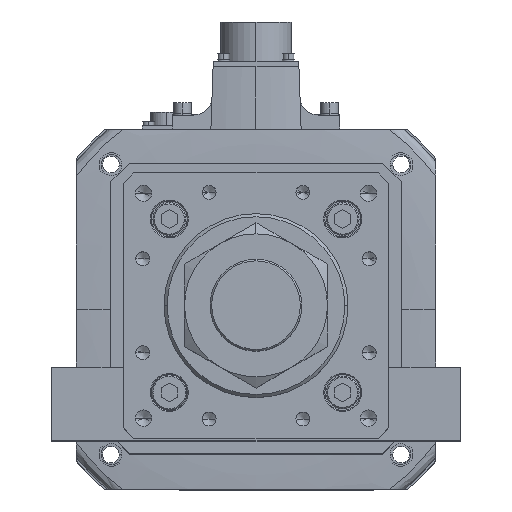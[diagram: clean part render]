
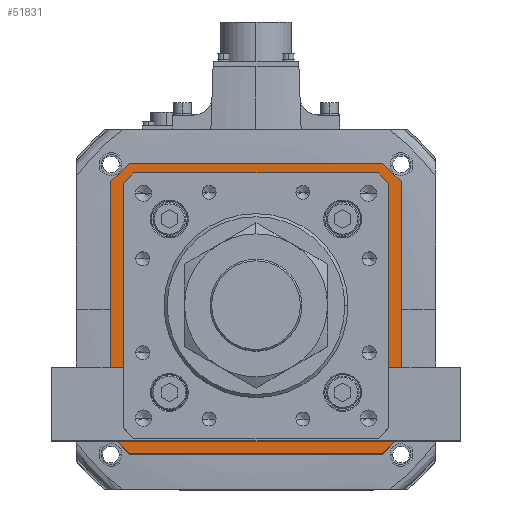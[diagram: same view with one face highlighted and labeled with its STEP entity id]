
A CAD part, top view. The second image highlights one B-rep face of the part: STEP entity #51831.
In plain terms, the highlighted planar face has unit normal (0, 0, 1) as drawn and (0, 0, -1) by its records, which use the part's own axes.
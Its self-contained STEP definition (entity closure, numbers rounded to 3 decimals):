
#22 = VERTEX_POINT ( 'NONE', #49429 ) ;
#27 = CARTESIAN_POINT ( 'NONE',  ( 58.793, -63., 60. ) ) ;
#34 = CARTESIAN_POINT ( 'NONE',  ( -62., -71., 60. ) ) ;
#83 = DIRECTION ( 'NONE',  ( 0., -1., 0. ) ) ;
#411 = VECTOR ( 'NONE', #14367, 1000. ) ;
#435 = CARTESIAN_POINT ( 'NONE',  ( 62., -71., 60. ) ) ;
#634 = CARTESIAN_POINT ( 'NONE',  ( 71., -62., 60. ) ) ;
#1314 = CARTESIAN_POINT ( 'NONE',  ( -71., -62., 60. ) ) ;
#1891 = EDGE_CURVE ( 'NONE', #39667, #38393, #15159, .T. ) ;
#1938 = EDGE_CURVE ( 'NONE', #15852, #28241, #16554, .T. ) ;
#2105 = ORIENTED_EDGE ( 'NONE', *, *, #35217, .F. ) ;
#2405 = PLANE ( 'NONE',  #21901 ) ;
#2973 = DIRECTION ( 'NONE',  ( 1., 0., 0. ) ) ;
#3603 = ORIENTED_EDGE ( 'NONE', *, *, #28054, .T. ) ;
#4271 = VECTOR ( 'NONE', #48560, 1000. ) ;
#4365 = LINE ( 'NONE', #54025, #23740 ) ;
#4792 = VECTOR ( 'NONE', #17540, 1000. ) ;
#5046 = VERTEX_POINT ( 'NONE', #53809 ) ;
#5992 = VECTOR ( 'NONE', #50676, 1000. ) ;
#6170 = EDGE_CURVE ( 'NONE', #55382, #22, #49388, .T. ) ;
#6862 = EDGE_CURVE ( 'NONE', #9101, #45221, #4365, .T. ) ;
#7244 = VERTEX_POINT ( 'NONE', #34402 ) ;
#7733 = CARTESIAN_POINT ( 'NONE',  ( 71., 62., 60. ) ) ;
#8147 = DIRECTION ( 'NONE',  ( -0.707, 0.707, 0. ) ) ;
#9101 = VERTEX_POINT ( 'NONE', #34 ) ;
#9621 = ORIENTED_EDGE ( 'NONE', *, *, #1891, .T. ) ;
#9720 = CARTESIAN_POINT ( 'NONE',  ( -60.896, 60.896, 60. ) ) ;
#10563 = VECTOR ( 'NONE', #19346, 1000. ) ;
#10633 = LINE ( 'NONE', #36006, #16855 ) ;
#10750 = CARTESIAN_POINT ( 'NONE',  ( 63., -58.793, 60. ) ) ;
#11009 = VECTOR ( 'NONE', #35081, 1000. ) ;
#11554 = ORIENTED_EDGE ( 'NONE', *, *, #1938, .F. ) ;
#12920 = CARTESIAN_POINT ( 'NONE',  ( 71., 71., 60. ) ) ;
#14367 = DIRECTION ( 'NONE',  ( -0.707, -0.707, 0. ) ) ;
#15159 = LINE ( 'NONE', #35267, #11009 ) ;
#15400 = LINE ( 'NONE', #19547, #10563 ) ;
#15852 = VERTEX_POINT ( 'NONE', #33961 ) ;
#15898 = LINE ( 'NONE', #30936, #37987 ) ;
#15910 = EDGE_LOOP ( 'NONE', ( #22196, #55311, #24316, #3603, #2105, #21984, #11554, #35744 ) ) ;
#16044 = LINE ( 'NONE', #53582, #4271 ) ;
#16554 = LINE ( 'NONE', #12920, #4792 ) ;
#16855 = VECTOR ( 'NONE', #23090, 1000. ) ;
#17444 = DIRECTION ( 'NONE',  ( -1., 0., 0. ) ) ;
#17540 = DIRECTION ( 'NONE',  ( 0., 1., 0. ) ) ;
#17799 = LINE ( 'NONE', #9720, #34324 ) ;
#18102 = ORIENTED_EDGE ( 'NONE', *, *, #25184, .T. ) ;
#18293 = VECTOR ( 'NONE', #42611, 1000. ) ;
#19346 = DIRECTION ( 'NONE',  ( 0.707, 0.707, 0. ) ) ;
#19547 = CARTESIAN_POINT ( 'NONE',  ( 60.896, -60.896, 60. ) ) ;
#19578 = EDGE_CURVE ( 'NONE', #9101, #34320, #10633, .T. ) ;
#20380 = LINE ( 'NONE', #52678, #52899 ) ;
#20410 = DIRECTION ( 'NONE',  ( 0., 0., 1. ) ) ;
#20755 = VECTOR ( 'NONE', #33132, 1000. ) ;
#21509 = CARTESIAN_POINT ( 'NONE',  ( -62., 71., 60. ) ) ;
#21901 = AXIS2_PLACEMENT_3D ( 'NONE', #24474, #20410, #2973 ) ;
#21984 = ORIENTED_EDGE ( 'NONE', *, *, #31521, .T. ) ;
#22196 = ORIENTED_EDGE ( 'NONE', *, *, #6862, .F. ) ;
#22770 = VERTEX_POINT ( 'NONE', #50624 ) ;
#22852 = ORIENTED_EDGE ( 'NONE', *, *, #28966, .T. ) ;
#23090 = DIRECTION ( 'NONE',  ( -0.707, 0.707, 0. ) ) ;
#23740 = VECTOR ( 'NONE', #49548, 1000. ) ;
#24316 = ORIENTED_EDGE ( 'NONE', *, *, #43042, .F. ) ;
#24474 = CARTESIAN_POINT ( 'NONE',  ( 0., 0., 60. ) ) ;
#25184 = EDGE_CURVE ( 'NONE', #37384, #39667, #44245, .T. ) ;
#26773 = LINE ( 'NONE', #51245, #5992 ) ;
#27171 = DIRECTION ( 'NONE',  ( 0., -1., 0. ) ) ;
#27600 = ORIENTED_EDGE ( 'NONE', *, *, #40941, .T. ) ;
#27925 = CARTESIAN_POINT ( 'NONE',  ( 62., 71., 60. ) ) ;
#27956 = EDGE_CURVE ( 'NONE', #15852, #45221, #46767, .T. ) ;
#28054 = EDGE_CURVE ( 'NONE', #5046, #41677, #54366, .T. ) ;
#28241 = VERTEX_POINT ( 'NONE', #7733 ) ;
#28966 = EDGE_CURVE ( 'NONE', #32998, #37384, #20380, .T. ) ;
#29695 = VECTOR ( 'NONE', #27171, 1000. ) ;
#30936 = CARTESIAN_POINT ( 'NONE',  ( -59., 63., 60. ) ) ;
#31521 = EDGE_CURVE ( 'NONE', #43021, #28241, #16044, .T. ) ;
#31771 = CARTESIAN_POINT ( 'NONE',  ( -71., 71., 60. ) ) ;
#32005 = CARTESIAN_POINT ( 'NONE',  ( -63., -58.793, 60. ) ) ;
#32583 = ORIENTED_EDGE ( 'NONE', *, *, #41573, .T. ) ;
#32627 = CARTESIAN_POINT ( 'NONE',  ( -63., 58.793, 60. ) ) ;
#32998 = VERTEX_POINT ( 'NONE', #32627 ) ;
#33132 = DIRECTION ( 'NONE',  ( 0.707, -0.707, 0. ) ) ;
#33832 = LINE ( 'NONE', #31771, #29695 ) ;
#33961 = CARTESIAN_POINT ( 'NONE',  ( 71., -62., 60. ) ) ;
#34320 = VERTEX_POINT ( 'NONE', #1314 ) ;
#34324 = VECTOR ( 'NONE', #50906, 1000. ) ;
#34402 = CARTESIAN_POINT ( 'NONE',  ( 58.793, 63., 60. ) ) ;
#35081 = DIRECTION ( 'NONE',  ( 1., 0., 0. ) ) ;
#35217 = EDGE_CURVE ( 'NONE', #43021, #41677, #26773, .T. ) ;
#35267 = CARTESIAN_POINT ( 'NONE',  ( 59., -63., 60. ) ) ;
#35744 = ORIENTED_EDGE ( 'NONE', *, *, #27956, .T. ) ;
#36006 = CARTESIAN_POINT ( 'NONE',  ( -62., -71., 60. ) ) ;
#37370 = CARTESIAN_POINT ( 'NONE',  ( -60.896, -60.896, 60. ) ) ;
#37384 = VERTEX_POINT ( 'NONE', #32005 ) ;
#37987 = VECTOR ( 'NONE', #17444, 1000. ) ;
#38393 = VERTEX_POINT ( 'NONE', #27 ) ;
#39667 = VERTEX_POINT ( 'NONE', #42508 ) ;
#40941 = EDGE_CURVE ( 'NONE', #38393, #55382, #15400, .T. ) ;
#41573 = EDGE_CURVE ( 'NONE', #22, #7244, #53361, .T. ) ;
#41677 = VERTEX_POINT ( 'NONE', #21509 ) ;
#42508 = CARTESIAN_POINT ( 'NONE',  ( -58.793, -63., 60. ) ) ;
#42611 = DIRECTION ( 'NONE',  ( 0., 1., 0. ) ) ;
#43021 = VERTEX_POINT ( 'NONE', #27925 ) ;
#43042 = EDGE_CURVE ( 'NONE', #5046, #34320, #33832, .T. ) ;
#44245 = LINE ( 'NONE', #37370, #20755 ) ;
#44349 = VECTOR ( 'NONE', #8147, 1000. ) ;
#44629 = ORIENTED_EDGE ( 'NONE', *, *, #6170, .T. ) ;
#44792 = EDGE_CURVE ( 'NONE', #22770, #32998, #17799, .T. ) ;
#45221 = VERTEX_POINT ( 'NONE', #435 ) ;
#46211 = CARTESIAN_POINT ( 'NONE',  ( -71., 62., 60. ) ) ;
#46397 = FACE_BOUND ( 'NONE', #51107, .T. ) ;
#46767 = LINE ( 'NONE', #634, #411 ) ;
#48560 = DIRECTION ( 'NONE',  ( 0.707, -0.707, 0. ) ) ;
#49171 = FACE_OUTER_BOUND ( 'NONE', #15910, .T. ) ;
#49388 = LINE ( 'NONE', #51135, #18293 ) ;
#49429 = CARTESIAN_POINT ( 'NONE',  ( 63., 58.793, 60. ) ) ;
#49548 = DIRECTION ( 'NONE',  ( 1., 0., 0. ) ) ;
#50191 = VECTOR ( 'NONE', #50679, 1000. ) ;
#50624 = CARTESIAN_POINT ( 'NONE',  ( -58.793, 63., 60. ) ) ;
#50676 = DIRECTION ( 'NONE',  ( -1., 0., 0. ) ) ;
#50679 = DIRECTION ( 'NONE',  ( 0.707, 0.707, 0. ) ) ;
#50906 = DIRECTION ( 'NONE',  ( -0.707, -0.707, 0. ) ) ;
#51107 = EDGE_LOOP ( 'NONE', ( #52049, #22852, #18102, #9621, #27600, #44629, #32583, #54173 ) ) ;
#51135 = CARTESIAN_POINT ( 'NONE',  ( 63., 59., 60. ) ) ;
#51245 = CARTESIAN_POINT ( 'NONE',  ( -71., 71., 60. ) ) ;
#51831 = ADVANCED_FACE ( 'NONE', ( #46397, #49171 ), #2405, .F. ) ;
#52049 = ORIENTED_EDGE ( 'NONE', *, *, #44792, .T. ) ;
#52565 = EDGE_CURVE ( 'NONE', #7244, #22770, #15898, .T. ) ;
#52678 = CARTESIAN_POINT ( 'NONE',  ( -63., -59., 60. ) ) ;
#52899 = VECTOR ( 'NONE', #83, 1000. ) ;
#53361 = LINE ( 'NONE', #57280, #44349 ) ;
#53582 = CARTESIAN_POINT ( 'NONE',  ( 62., 71., 60. ) ) ;
#53809 = CARTESIAN_POINT ( 'NONE',  ( -71., 62., 60. ) ) ;
#54025 = CARTESIAN_POINT ( 'NONE',  ( -71., -71., 60. ) ) ;
#54173 = ORIENTED_EDGE ( 'NONE', *, *, #52565, .T. ) ;
#54366 = LINE ( 'NONE', #46211, #50191 ) ;
#55311 = ORIENTED_EDGE ( 'NONE', *, *, #19578, .T. ) ;
#55382 = VERTEX_POINT ( 'NONE', #10750 ) ;
#57280 = CARTESIAN_POINT ( 'NONE',  ( 60.896, 60.896, 60. ) ) ;
